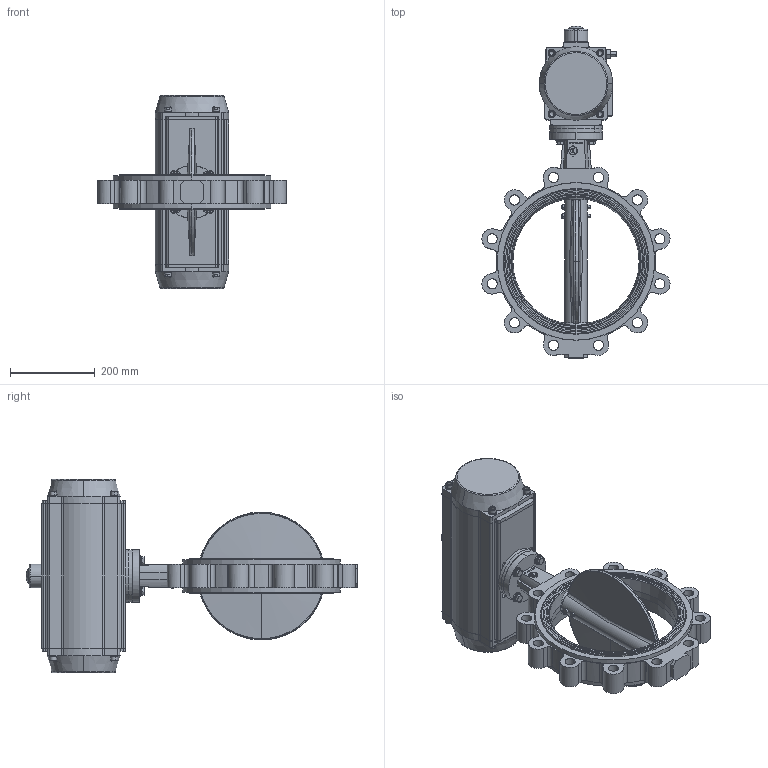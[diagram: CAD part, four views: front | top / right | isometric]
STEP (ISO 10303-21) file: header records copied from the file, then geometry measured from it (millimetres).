
FILE_DESCRIPTION (( 'STEP AP214' ), '1' );
FILE_NAME ('VPG464X-N03XX0300.step', '2022-06-27T15:53:18', ( '' ), ( '' ), 'SwSTEP 2.0', 'SolidWorks 2020', '' );
FILE_SCHEMA (( 'AUTOMOTIVE_DESIGN' ));
Length unit declared in the file: millimetre
Products named in the file (1): VPG464X-N03XX0300
Bounding box: 443.98 x 783.67 x 456 mm (x, y, z)
Surface area: 1070149 mm2 (no closed solid volume)
Topology: 0 solids, 70 shells, 756 faces, 4303 edges, 3600 vertices
Faces by surface type: plane 309, cylinder 277, cone 88, bspline 78, torus 4
Entity records: 73323 total; most frequent: CARTESIAN_POINT 34256, ORIENTED_EDGE 5895, DIRECTION 5249, EDGE_CURVE 4299, VERTEX_POINT 3600, LINE 2185, VECTOR 2185, AXIS2_PLACEMENT_3D 1532
